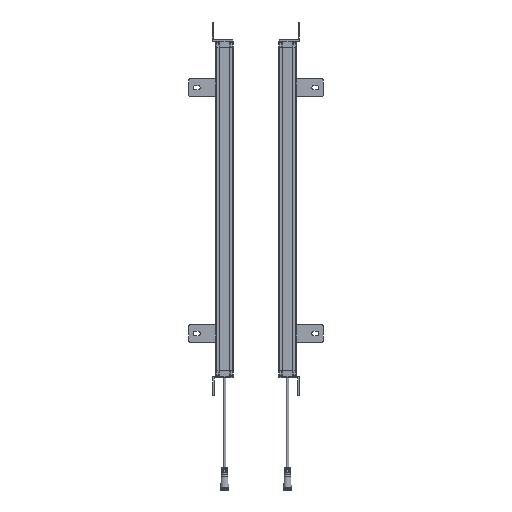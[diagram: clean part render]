
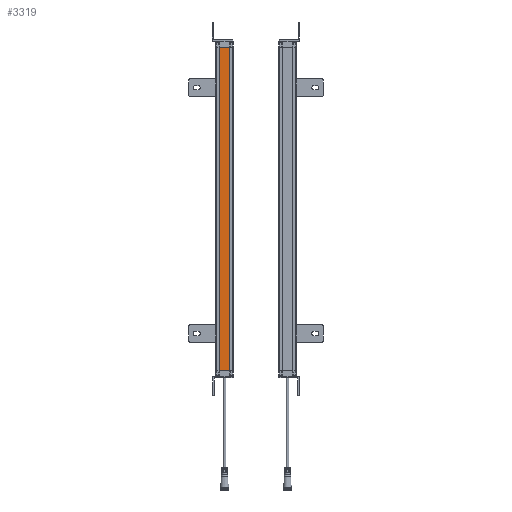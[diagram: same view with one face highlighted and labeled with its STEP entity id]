
A CAD part, left-side view. The second image highlights one B-rep face of the part: STEP entity #3319.
In plain terms, the highlighted planar face has unit normal (-1, 0, 0).
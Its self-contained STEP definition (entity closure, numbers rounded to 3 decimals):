
#1795=FACE_OUTER_BOUND('',#5986,.T.);
#3319=ADVANCED_FACE('',(#1795),#4749,.T.);
#4749=PLANE('',#29857);
#5986=EDGE_LOOP('',(#9184,#9185,#9186,#9187));
#9184=ORIENTED_EDGE('',*,*,#19383,.F.);
#9185=ORIENTED_EDGE('',*,*,#19072,.T.);
#9186=ORIENTED_EDGE('',*,*,#19385,.T.);
#9187=ORIENTED_EDGE('',*,*,#19386,.F.);
#16145=VERTEX_POINT('',#43699);
#16146=VERTEX_POINT('',#43701);
#16357=VERTEX_POINT('',#44323);
#16358=VERTEX_POINT('',#44327);
#19072=EDGE_CURVE('',#16146,#16145,#24663,.T.);
#19383=EDGE_CURVE('',#16146,#16357,#24884,.T.);
#19385=EDGE_CURVE('',#16145,#16358,#24886,.T.);
#19386=EDGE_CURVE('',#16357,#16358,#24887,.T.);
#24663=LINE('',#43700,#27142);
#24884=LINE('',#44322,#27363);
#24886=LINE('',#44326,#27365);
#24887=LINE('',#44328,#27366);
#27142=VECTOR('',#33404,1.);
#27363=VECTOR('',#34005,1.);
#27365=VECTOR('',#34009,1.);
#27366=VECTOR('',#34010,1.);
#29857=AXIS2_PLACEMENT_3D('',#44329,#34011,#34012);
#33404=DIRECTION('',(0.,1.,0.));
#34005=DIRECTION('',(0.,0.,-1.));
#34009=DIRECTION('',(0.,0.,-1.));
#34010=DIRECTION('',(0.,1.,0.));
#34011=DIRECTION('',(-1.,0.,0.));
#34012=DIRECTION('',(0.,-1.,0.));
#43699=CARTESIAN_POINT('',(50.4,-5.5,498.059));
#43700=CARTESIAN_POINT('',(50.4,-5.5,498.059));
#43701=CARTESIAN_POINT('',(50.4,-23.5,498.059));
#44322=CARTESIAN_POINT('',(50.4,-23.5,103.059));
#44323=CARTESIAN_POINT('',(50.4,-23.5,-41.941));
#44326=CARTESIAN_POINT('',(50.4,-5.5,103.059));
#44327=CARTESIAN_POINT('',(50.4,-5.5,-41.941));
#44328=CARTESIAN_POINT('',(50.4,-23.5,-41.941));
#44329=CARTESIAN_POINT('',(50.4,-5.5,-61.941));
